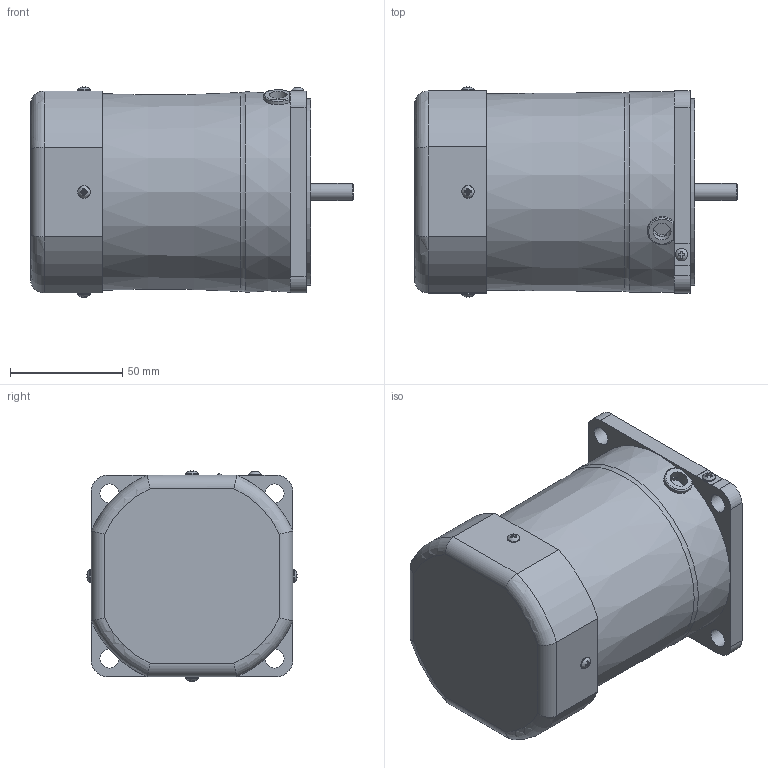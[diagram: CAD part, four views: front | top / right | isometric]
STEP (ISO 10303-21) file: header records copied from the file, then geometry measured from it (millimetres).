
FILE_DESCRIPTION(/* description */ (''),/* implementation_level */ '2;1');
FILE_NAME(/* name */ 'E:\도면작업\2016\0704) 미주향 SG 도면\3D MOTOR\SG9I60G_.stp',/* time_stamp */ '2016-07-22T13:50:49+09:00',/* author */ ('jy-jung'),/* organization */ (''),/* preprocessor_version */ 'ST-DEVELOPER v15.6',/* originating_system */ 'Autodesk Inventor 2015',/* authorisation */ '');
FILE_SCHEMA (('AUTOMOTIVE_DESIGN { 1 0 10303 214 3 1 1 }'));
Length unit declared in the file: millimetre
Products named in the file (1): 부품2
Bounding box: 143.9 x 93.89 x 93.89 mm (x, y, z)
Volume: 790530.9 mm3; surface area: 57013.7 mm2
Topology: 1 solids, 6 shells, 192 faces, 491 edges, 324 vertices
Faces by surface type: plane 120, cylinder 46, torus 14, cone 7, bspline 5
Full cylindrical faces by diameter (mm): 3 x4, 3.5 x4, 5.6 x5, 7.62 x1, 8 x1, 8.5 x4, 10 x1, 40 x1, 83 x1
Entity records: 6254 total; most frequent: CARTESIAN_POINT 1605, ORIENTED_EDGE 886, DIRECTION 858, EDGE_CURVE 443, VERTEX_POINT 315, AXIS2_PLACEMENT_3D 310, EDGE_LOOP 262, LINE 238
